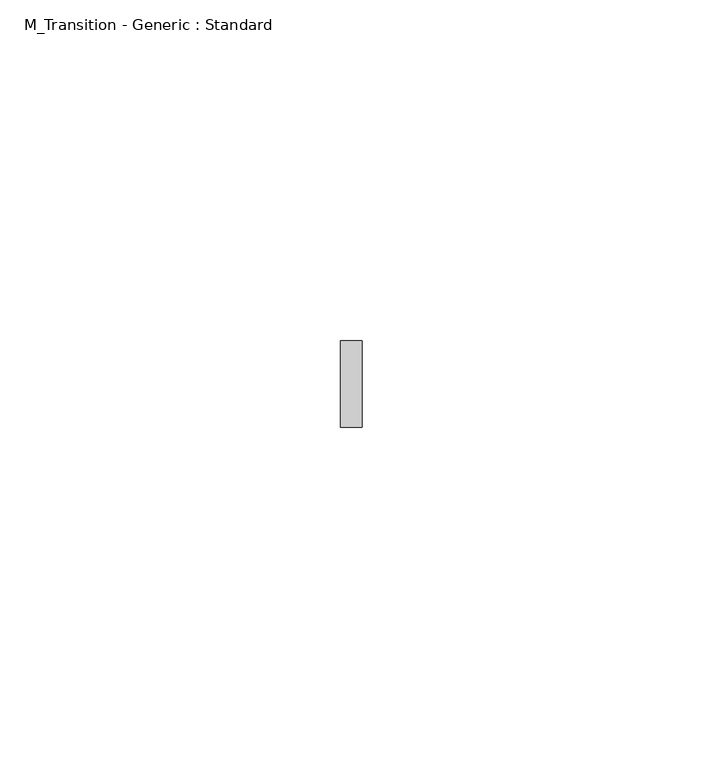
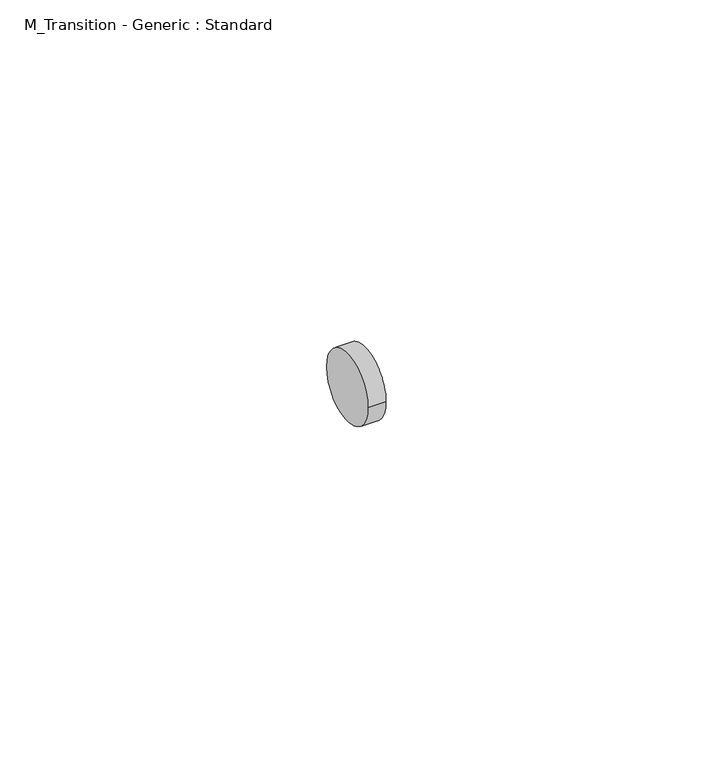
"""IFC4 building model written with IfcOpenShell, lengths in millimetres: pipe fitting geometry, M_Transition - Generic : Standard."""

from ifc_helpers import new_model, si_unit, frame, origin, place, context, project, spatial, polyline, circle_curve, source, transform, mapped, element, save
from ifc_brep_helpers import plane_surface, revolved_surface, advanced_brep


def m_transition_generic_standard_e868cdd7(model_context):
    return source(origin(), model_context, "Body", "AdvancedBrep", [
        advanced_brep(
        [(3.175, -6.35, 0.0), (3.175, 6.35, 0.0), (0.0, -6.3375, 0.0), (0.0, 6.3375, 0.0)],
        [
            (0, 1, circle_curve(frame((3.175, 0.0, 0.0), z_axis=(1.0, -1.3642420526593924e-12, 1.7563115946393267e-12), x_axis=(-1.3535944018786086e-12, -1.0, 0.0)), 6.35)),
            (1, 0, circle_curve(frame((3.175, 0.0, 0.0), z_axis=(1.0, -1.3642420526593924e-12, 1.7563115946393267e-12), x_axis=(1.3535944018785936e-12, 1.0, 0.0)), 6.35)),
            (2, 3, circle_curve(frame((0.0, 0.0, 0.0), z_axis=(-1.0, 1.3642420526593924e-12, -1.7563115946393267e-12), x_axis=(1.3535944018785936e-12, 1.0, 0.0)), 6.3375)),
            (3, 2, circle_curve(frame((0.0, 0.0, 0.0), z_axis=(-1.0, 1.3642420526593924e-12, -1.7563115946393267e-12), x_axis=(-1.3535944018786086e-12, -1.0, 0.0)), 6.3375)),
            (3, 1),
            (0, 2),
        ],
        [
            plane_surface(frame((3.175, 0.0, 0.0), z_axis=(1.0, 0.0, 0.0), x_axis=(0.0, 0.0, -1.0))),
            plane_surface(frame((0.0, 0.0, 0.0), z_axis=(-1.0, 0.0, 0.0), x_axis=(0.0, 0.0, -1.0))),
            revolved_surface(polyline([(0.0, 6.3374999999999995, 0.0), (3.175000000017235, 6.350000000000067, 0.0)]), (-1609.725, 0.0, 0.0), (1.0, -1.3642420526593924e-12, 1.7563115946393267e-12)),
            revolved_surface(polyline([(-1.7280399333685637e-11, -6.337499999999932, 0.0), (3.1749999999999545, -6.35, 0.0)]), (-1609.725, 0.0, 0.0), (1.0, -1.3642420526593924e-12, 1.7563115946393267e-12)),
        ],
        [
            (0, [[1, 2]]),
            (1, [[3, 4]]),
            (2, [[-4, 5, -1, 6]]),
            (3, [[-3, -6, -2, -5]]),
        ],
    ),
    ])


if __name__ == "__main__":
    model = new_model("IFC4")
    model_context = context("Model", 3, world=origin())
    ifc_project = project(units=[si_unit("LENGTHUNIT", "METRE", prefix="MILLI")], contexts=[model_context])
    site = spatial("IfcSite", under=ifc_project)
    building = spatial("IfcBuilding", under=site)
    placement = place(None, origin())
    m_transition_generic_standard_shape = m_transition_generic_standard_e868cdd7(model_context)
    element("IfcPipeFitting", 1, ObjectType="M_Transition - Generic : Standard", at=placement, inside=building, context=model_context, shape_type="MappedRepresentation", body=[
        mapped(m_transition_generic_standard_shape, transform((0.0, 0.0, 0.0), x_axis=(1.0, 0.0, 0.0), y_axis=(0.0, 1.0, 0.0), z_axis=(0.0, 0.0, 1.0))),
    ])
    save(model, "model.ifc")
